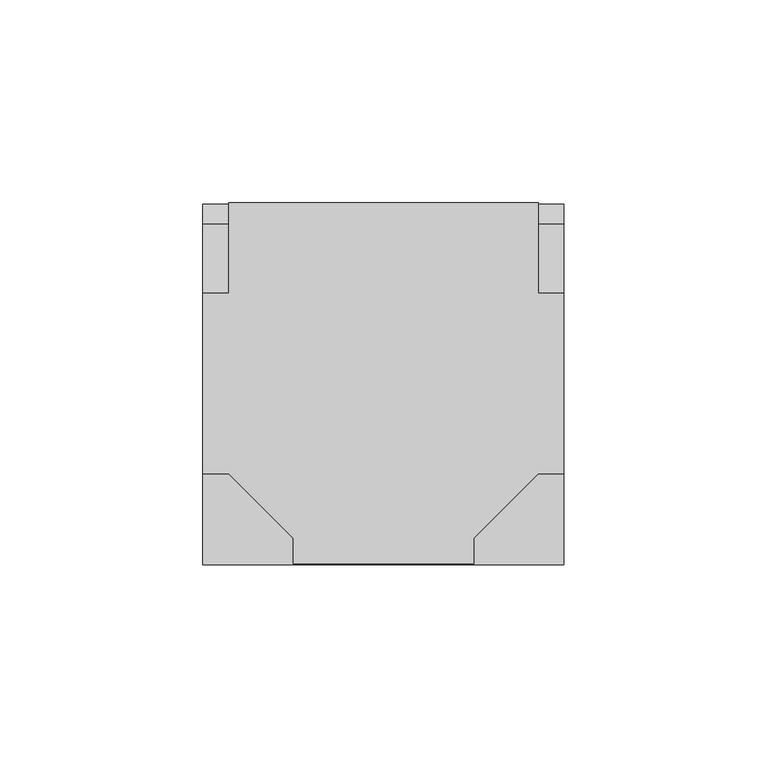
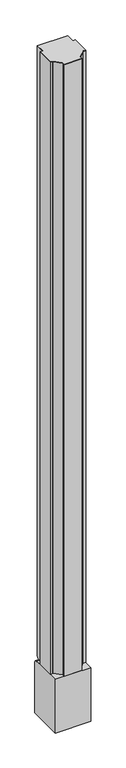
"""IFC4 building model written with IfcOpenShell, lengths in millimetres: furniture geometry."""

import ifcopenshell
import ifcopenshell.guid

model = None  # the IFC model being written
_history = None  # IfcOwnerHistory: only IFC2X3 demands one
_inside = {}  # id of a spatial element -> (the spatial element, [elements in it])
_under = {}  # id of a project, library or spatial element -> (it, [spatial elements below it])
_declared = {}  # id of a project -> (the project, [libraries it declares])
_typed = {}  # id of a type object -> (the type object, [elements of that type])
_made_of = {}  # id of a material, layer set ... -> (it, [elements and type objects made of it])


def new_model(schema):
    """Start an empty IFC model of exactly this schema.

    Asked for "IFC4X3", IfcOpenShell would pick the latest addendum, in which some entities
    have other attributes; the version numbers below select the first issue.
    IFC2X3 requires an IfcOwnerHistory on every rooted entity: one is made here for all.
    """
    global model, _history
    if schema == "IFC4X3":
        model = ifcopenshell.file(schema_version=(4, 3, 0, 0))
    else:
        model = ifcopenshell.file(schema=schema)
    _inside.clear()
    _under.clear()
    _declared.clear()
    _typed.clear()
    _made_of.clear()
    _history = None
    if model.schema == "IFC2X3":
        org = make("IfcOrganization", Name="unknown")
        user = make(
            "IfcPersonAndOrganization",
            ThePerson=make("IfcPerson", FamilyName="unknown"),
            TheOrganization=org,
        )
        app = make(
            "IfcApplication",
            ApplicationDeveloper=org,
            Version="unknown",
            ApplicationFullName="unknown",
            ApplicationIdentifier="unknown",
        )
        _history = make(
            "IfcOwnerHistory",
            OwningUser=user,
            OwningApplication=app,
            ChangeAction="ADDED",
            CreationDate=0,
        )
    return model


def make(cls, **values):
    """One entity of the class cls with the attributes given. An attribute that is None is left unset."""
    return model.create_entity(
        cls, **{name: value for name, value in values.items() if value is not None}
    )


def rooted(cls, **values):
    """An entity with a GlobalId (a new one), such as an element, a storey or a relation."""
    return make(cls, GlobalId=ifcopenshell.guid.new(), OwnerHistory=_history, **values)


def si_unit(unit_type, name, prefix=None):
    """IfcSIUnit, for example si_unit("LENGTHUNIT", "METRE", prefix="MILLI")."""
    return make("IfcSIUnit", UnitType=unit_type, Prefix=prefix, Name=name)


def assignment(units):
    """IfcUnitAssignment: the units of a project."""
    return None if units is None else make("IfcUnitAssignment", Units=units)


def point(xyz):
    """IfcCartesianPoint."""
    return None if xyz is None else make("IfcCartesianPoint", Coordinates=xyz)


def direction(xyz):
    """IfcDirection."""
    return None if xyz is None else make("IfcDirection", DirectionRatios=xyz)


def frame(location, z_axis=None, x_axis=None):
    """IfcAxis2Placement3D, a coordinate frame: its origin and axes. An axis left out is left unset."""
    return make(
        "IfcAxis2Placement3D",
        Location=point(location),
        Axis=direction(z_axis),
        RefDirection=direction(x_axis),
    )


def frame_2d(location, x_axis=None):
    """IfcAxis2Placement2D, a coordinate frame in the plane: its origin and x axis."""
    return make(
        "IfcAxis2Placement2D", Location=point(location), RefDirection=direction(x_axis)
    )


def origin():
    """The frame at (0, 0, 0) with its axes left unset."""
    return frame((0.0, 0.0, 0.0))


def place(relative_to, where):
    """IfcLocalPlacement: puts the frame where relative to a parent placement (None: the world)."""
    return make(
        "IfcLocalPlacement", PlacementRelTo=relative_to, RelativePlacement=where
    )


def context(
    kind, dimensions, precision=None, world=None, true_north=None, identifier=None
):
    """IfcGeometricRepresentationContext, for example the 3D "Model" context."""
    return make(
        "IfcGeometricRepresentationContext",
        ContextIdentifier=identifier,
        ContextType=kind,
        CoordinateSpaceDimension=dimensions,
        Precision=precision,
        WorldCoordinateSystem=world,
        TrueNorth=true_north,
    )


def project(units=None, contexts=None):
    """IfcProject with its units and contexts."""
    return rooted(
        "IfcProject",
        Name="project",
        RepresentationContexts=contexts,
        UnitsInContext=assignment(units),
    )


def spatial(cls, under=None, at=None, **own):
    """A site, building, storey or space (cls), placed at a placement, below another one or the project."""
    s = rooted(cls, ObjectPlacement=at, **own)
    if under is not None:
        _under.setdefault(under.id(), (under, []))[1].append(s)
    return s


def polyline(points):
    """IfcPolyline through the points."""
    return make("IfcPolyline", Points=[point(p) for p in points])


def circle_curve(where, radius):
    """IfcCircle in the frame where."""
    return make("IfcCircle", Position=where, Radius=radius)


def trimmed(basis, trim1, trim2, sense, master):
    """IfcTrimmedCurve: the piece of a basis curve between two trims."""
    return make(
        "IfcTrimmedCurve",
        BasisCurve=basis,
        Trim1=trim1,
        Trim2=trim2,
        SenseAgreement=sense,
        MasterRepresentation=master,
    )


def segment(curve, same_sense, transition):
    """IfcCompositeCurveSegment."""
    return make(
        "IfcCompositeCurveSegment",
        Transition=transition,
        SameSense=same_sense,
        ParentCurve=curve,
    )


def composite_curve(segments, self_intersect=None):
    """IfcCompositeCurve: segments joined end to end."""
    return make("IfcCompositeCurve", Segments=segments, SelfIntersect=self_intersect)


def outline(outer, holes=None, kind="AREA"):
    """IfcArbitraryClosedProfileDef: a profile drawn as a closed curve; with holes, ...WithVoids."""
    if holes is None:
        return make("IfcArbitraryClosedProfileDef", ProfileType=kind, OuterCurve=outer)
    return make(
        "IfcArbitraryProfileDefWithVoids",
        ProfileType=kind,
        OuterCurve=outer,
        InnerCurves=holes,
    )


def extrude(swept, where, along, depth):
    """IfcExtrudedAreaSolid: the profile swept, set in the frame where, extruded along a direction by depth."""
    return make(
        "IfcExtrudedAreaSolid",
        SweptArea=swept,
        Position=where,
        ExtrudedDirection=direction(along),
        Depth=depth,
    )


def shape(context_of_items, identifier, shape_type, items):
    """IfcShapeRepresentation: the items that make up one representation, for example the "Body"."""
    return make(
        "IfcShapeRepresentation",
        ContextOfItems=context_of_items,
        RepresentationIdentifier=identifier,
        RepresentationType=shape_type,
        Items=items,
    )


def source(mapping_origin, context_of_items, identifier, shape_type, items):
    """IfcRepresentationMap: a shape defined once, which mapped items show again and again."""
    return make(
        "IfcRepresentationMap",
        MappingOrigin=mapping_origin,
        MappedRepresentation=shape(context_of_items, identifier, shape_type, items),
    )


def transform(
    local_origin,
    x_axis=None,
    y_axis=None,
    z_axis=None,
    scale=None,
    scale2=None,
    scale3=None,
    uniform=True,
):
    """IfcCartesianTransformationOperator3D, or its non-uniform kind. x_axis, y_axis, z_axis: its Axis1, 2, 3."""
    if uniform:
        return make(
            "IfcCartesianTransformationOperator3D",
            Axis1=direction(x_axis),
            Axis2=direction(y_axis),
            LocalOrigin=point(local_origin),
            Scale=scale,
            Axis3=direction(z_axis),
        )
    return make(
        "IfcCartesianTransformationOperator3DnonUniform",
        Axis1=direction(x_axis),
        Axis2=direction(y_axis),
        LocalOrigin=point(local_origin),
        Scale=scale,
        Axis3=direction(z_axis),
        Scale2=scale2,
        Scale3=scale3,
    )


def mapped(mapping_source, mapping_target):
    """IfcMappedItem: shows the shape of a source again, moved by a transform."""
    return make(
        "IfcMappedItem", MappingSource=mapping_source, MappingTarget=mapping_target
    )


def made_of(thing, what):
    """Note that an element or type object is made of a material, layer set ...; save() writes the relation."""
    if what is not None:
        _made_of.setdefault(what.id(), (what, []))[1].append(thing)
    return thing


def element(
    cls,
    number,
    at=None,
    inside=None,
    cuts=None,
    type_object=None,
    material=None,
    context=None,
    identifier="Body",
    shape_type=None,
    held_by="IfcProductDefinitionShape",
    body=None,
    shapes=None,
    **own,
):
    """One element of the class cls, such as IfcWall. Its Tag is "e" and its number.

    at: its placement. inside: the storey or other place that contains it. cuts: it is an
    opening in that element (IfcRelVoidsElement). A single representation is given by context,
    identifier, shape_type and body (its items); several are given by shapes. held_by: the class
    of the entity that holds the representations. save() writes the other relations.
    """
    e = rooted(cls, Tag="e%d" % number, ObjectPlacement=at, **own)
    if body is not None:
        shapes = [shape(context, identifier, shape_type, body)]
    if shapes is not None:
        e.Representation = make(held_by, Representations=shapes)
    if inside is not None:
        _inside.setdefault(inside.id(), (inside, []))[1].append(e)
    if cuts is not None:
        rooted(
            "IfcRelVoidsElement", RelatingBuildingElement=cuts, RelatedOpeningElement=e
        )
    if type_object is not None:
        _typed.setdefault(type_object.id(), (type_object, []))[1].append(e)
    return made_of(e, material)


def aggregate(whole, parts):
    """IfcRelAggregates: a whole, such as a stair, and the parts it consists of."""
    return rooted("IfcRelAggregates", RelatingObject=whole, RelatedObjects=parts)


def save(model, path):
    """Write the relations noted so far, then the file.

    IfcRelAggregates (storeys below a building ...), IfcRelContainedInSpatialStructure (elements
    in a storey), IfcRelDefinesByType, IfcRelAssociatesMaterial and IfcRelDeclares: one each for
    every whole, place, type object, material and project.
    """
    for whole, parts in _under.values():
        aggregate(whole, parts)
    for where, things in _inside.values():
        rooted(
            "IfcRelContainedInSpatialStructure",
            RelatedElements=things,
            RelatingStructure=where,
        )
    for kind, things in _typed.values():
        rooted("IfcRelDefinesByType", RelatedObjects=things, RelatingType=kind)
    for what, things in _made_of.values():
        rooted("IfcRelAssociatesMaterial", RelatedObjects=things, RelatingMaterial=what)
    for by, libraries in _declared.values():
        rooted("IfcRelDeclares", RelatingContext=by, RelatedDefinitions=libraries)
    model.write(path)


def plane_surface(at):
    """IfcPlane: the flat surface through the origin of the frame at, square to its z axis."""
    return make("IfcPlane", Position=at)


def cylinder_surface(at, radius):
    """IfcCylindricalSurface: all points at the distance radius from the z axis of the frame at."""
    return make("IfcCylindricalSurface", Position=at, Radius=radius)


def advanced_brep(points, edges, surfaces, faces):
    """IfcAdvancedBrep: a solid bounded by faces that lie on surfaces and meet in shared edges.

    An edge is (start, end): straight between two places in points (the first is 0);
    or (start, end, curve); or (start, end, curve, False) where it runs against its curve.
    A face is (place in surfaces, loops), or (place, loops, False) where it looks against
    its surface's normal. A loop lists edges by number (the first is 1), with a minus sign
    where the edge is run from its end to its start. The first loop is the outer one.
    """
    corners = [point(p) for p in points]
    vertices = [make("IfcVertexPoint", VertexGeometry=c) for c in corners]
    made = []
    for start, end, *more in edges:
        made.append(
            make(
                "IfcEdgeCurve",
                EdgeStart=vertices[start],
                EdgeEnd=vertices[end],
                EdgeGeometry=more[0] if more else make("IfcPolyline", Points=[corners[start], corners[end]]),
                SameSense=more[1] if len(more) > 1 else True,
            )
        )
    hull = []
    for where, loops, *sense in faces:
        bounds = []
        for j, loop in enumerate(loops):
            ring = [make("IfcOrientedEdge", EdgeElement=made[abs(k) - 1], Orientation=k > 0) for k in loop]
            bounds.append(
                make(
                    "IfcFaceOuterBound" if j == 0 else "IfcFaceBound",
                    Bound=make("IfcEdgeLoop", EdgeList=ring),
                    Orientation=True,
                )
            )
        hull.append(make("IfcAdvancedFace", Bounds=bounds, FaceSurface=surfaces[where], SameSense=sense[0] if sense else True))
    return make("IfcAdvancedBrep", Outer=make("IfcClosedShell", CfsFaces=hull))


def furniture_7175fb00(model_context):
    return source(origin(), model_context, "Body", "SolidModel", [
        advanced_brep(
        [(-12.6999949, 52.6152101, 1776.4125), (63.5000049, 52.6152101, 1776.4125), (63.5000049, 52.6152101, 158.369), (-12.6999949, 52.6152101, 158.369), (63.5000049, -14.059796, 1776.4125), (63.5000049, -14.059796, 152.4), (63.5000049, 39.9152101, 152.4), (63.5000049, 46.6462101, 152.4), (-12.6999949, -14.0597907, 1776.4125), (-12.6999949, 46.6462101, 152.4), (-12.6999949, 39.9152101, 152.4), (-12.6999949, -14.0597907, 152.4), (3.1750011, -29.9347867, 1776.4125), (3.1750011, -29.9347867, 152.4), (47.6250142, -29.9347867, 1776.4125), (47.6250142, -29.9347867, 152.4)],
        [
            (0, 1),
            (1, 2),
            (2, 3),
            (3, 0),
            (1, 4),
            (4, 5),
            (5, 6),
            (6, 7),
            (7, 2, circle_curve(frame((63.5000049, 46.6462101, 158.369), z_axis=(1.0, 0.0, 0.0), x_axis=(0.0, -1.0, 0.0)), 5.969)),
            (8, 0),
            (3, 9, circle_curve(frame((-12.6999949, 46.6462101, 158.369), z_axis=(-1.0, 0.0, 0.0), x_axis=(0.0, -1.0, 0.0)), 5.969)),
            (9, 10),
            (10, 11),
            (11, 8),
            (12, 8),
            (11, 13),
            (13, 12),
            (14, 12),
            (13, 15),
            (15, 14),
            (4, 14),
            (15, 5),
            (9, 7),
        ],
        [
            plane_surface(frame((63.5000049, 52.6152101, 1776.4125), z_axis=(0.0, 1.0, 0.0), x_axis=(0.0, 0.0, -1.0))),
            plane_surface(frame((63.5000049, -14.059796, 1776.4125), z_axis=(1.0, 0.0, 0.0), x_axis=(0.0, 0.0, -1.0))),
            plane_surface(frame((-12.6999949, 52.6152101, 1776.4125), z_axis=(-1.0, 0.0, 0.0), x_axis=(0.0, 0.0, -1.0))),
            plane_surface(frame((-12.6999949, -14.0597907, 1776.4125), z_axis=(-0.7071067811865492, -0.7071067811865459, 0.0), x_axis=(0.0, 0.0, -1.0))),
            plane_surface(frame((3.1750011, -29.9347867, 1776.4125), z_axis=(0.0, -1.0, 0.0), x_axis=(0.0, 0.0, -1.0))),
            plane_surface(frame((47.6250142, -29.9347867, 1776.4125), z_axis=(0.7071067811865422, -0.7071067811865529, 0.0), x_axis=(0.0, 0.0, -1.0))),
            plane_surface(frame((-12.6999949, 52.6152101, 1776.4125), z_axis=(0.0, 0.0, 1.0), x_axis=(-1.0, 0.0, 0.0))),
            plane_surface(frame((-12.6999949, 52.6152101, 152.4), z_axis=(0.0, 0.0, -1.0), x_axis=(1.0, 0.0, 0.0))),
            cylinder_surface(frame((69.8500019, 46.6462101, 158.369), z_axis=(-1.0, 0.0, 0.0), x_axis=(0.0, -1.0, 0.0)), 5.969),
        ],
        [
            (0, [[1, 2, 3, 4]]),
            (1, [[5, 6, 7, 8, 9, -2]]),
            (2, [[10, -4, 11, 12, 13, 14]]),
            (3, [[15, -14, 16, 17]]),
            (4, [[18, -17, 19, 20]]),
            (5, [[21, -20, 22, -6]]),
            (6, [[-1, -10, -15, -18, -21, -5]]),
            (7, [[-22, -19, -16, -13, -12, 23, -8, -7]]),
            (8, [[-23, -11, -3, -9]]),
        ],
    ),
        extrude(outline(polyline([(3.1750011, -36.2847899), (3.1750011, -14.059793), (-19.0499981, -14.059793), (-19.0499981, 30.3902131), (69.8500019, 30.3902131), (69.8500019, -14.059793), (47.6250049, -14.059793), (47.6250049, -36.2847899), (3.1750011, -36.2847899)])), frame((0.0, 0.0, 152.4), z_axis=(0.0, 0.0, 1.0), x_axis=(1.0, 0.0, 0.0)), (0.0, 0.0, 1.0), 1624.0125),
        extrude(outline(polyline([(47.6250049, -29.934796), (47.6250049, -36.2847899), (3.1750011, -36.2847899), (3.1750011, -29.9347867), (-12.6999926, -14.059793), (-19.0499981, -14.059793), (-19.0499981, 30.3902131), (-12.6999949, 30.3902131), (-12.6999949, 52.6152101), (63.5000049, 52.6152101), (63.5000049, 30.3902131), (69.8500019, 30.3902131), (69.8500019, -14.059793), (63.5000079, -14.059793), (47.6250049, -29.934796)])), frame((0.0, 0.0, 1776.4125), z_axis=(0.0, 0.0, 1.0), x_axis=(1.0, 0.0, 0.0)), (0.0, 0.0, 1.0), 1.5875),
        extrude(outline(composite_curve([segment(polyline([(-36.2847899, 152.4), (30.3969018, 152.4), (47.5941997, 149.9432432)]), True, "CONTINUOUS"), segment(trimmed(circle_curve(frame_2d((46.7708881, 144.1572033)), 5.844322), [point((47.5941997, 149.9432432))], [point((52.6152101, 144.1572033))], False, "CARTESIAN"), True, "CONTINUOUS"), segment(polyline([(52.6152101, 144.1572033), (52.6152101, 9.525), (-36.2847899, 9.525), (-36.2847899, 152.4)]), True, "CONTINUOUS")], self_intersect=False)), frame((-19.0499981, 0.0, 0.0), z_axis=(1.0, 0.0, 0.0), x_axis=(0.0, 1.0, 0.0)), (0.0, 0.0, 1.0), 88.9),
    ])


if __name__ == "__main__":
    model = new_model("IFC4")
    model_context = context("Model", 3, world=origin())
    ifc_project = project(units=[si_unit("LENGTHUNIT", "METRE", prefix="MILLI")], contexts=[model_context])
    site = spatial("IfcSite", under=ifc_project)
    building = spatial("IfcBuilding", under=site)
    placement = place(None, origin())
    furniture_shape = furniture_7175fb00(model_context)
    element("IfcFurniture", 1, ObjectType="HermanMiller_Ethospace_E1220_90DegreeConnector : Vnyl 70\"H 3-Way-N", at=placement, inside=building, context=model_context, shape_type="MappedRepresentation", body=[
        mapped(furniture_shape, transform((0.0, 0.0, 0.0), x_axis=(1.0, 0.0, 0.0), y_axis=(0.0, 1.0, 0.0), z_axis=(0.0, 0.0, 1.0))),
    ])
    save(model, "model.ifc")
